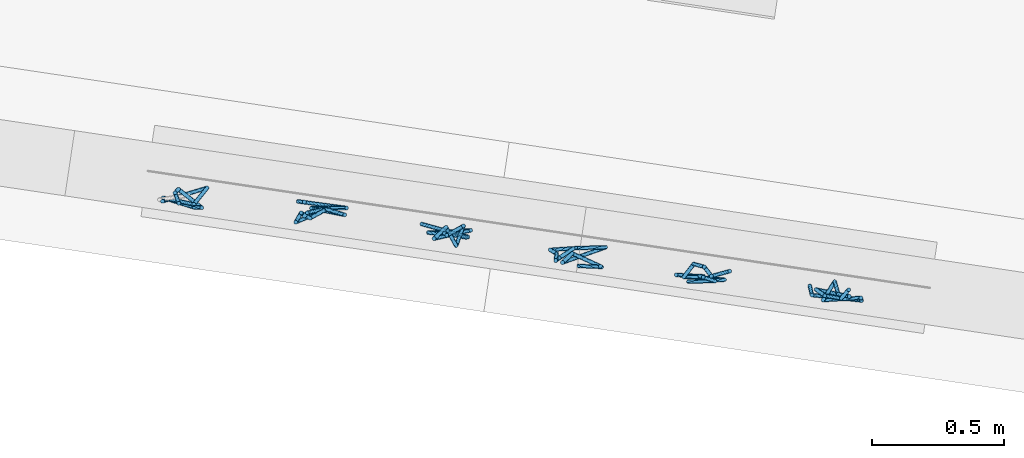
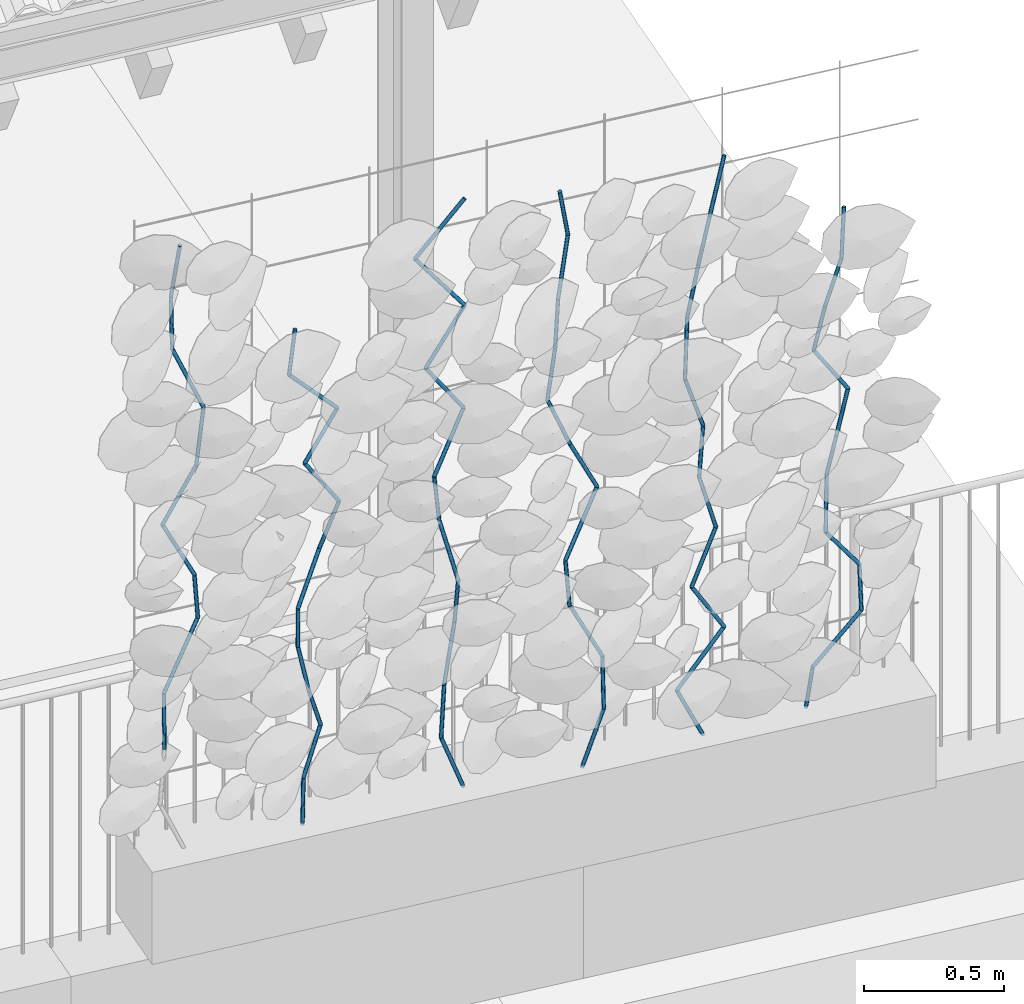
# One storey, part 115 of 128: 64 members, 1 element without a shape of its own.
"""IFC4 building model written with IfcOpenShell, lengths in metres."""

import ifcopenshell
import ifcopenshell.guid

model = None  # the IFC model being written
_history = None  # IfcOwnerHistory: only IFC2X3 demands one
_inside = {}  # id of a spatial element -> (the spatial element, [elements in it])
_under = {}  # id of a project, library or spatial element -> (it, [spatial elements below it])
_declared = {}  # id of a project -> (the project, [libraries it declares])
_typed = {}  # id of a type object -> (the type object, [elements of that type])
_made_of = {}  # id of a material, layer set ... -> (it, [elements and type objects made of it])


def new_model(schema):
    """Start an empty IFC model of exactly this schema.

    Asked for "IFC4X3", IfcOpenShell would pick the latest addendum, in which some entities
    have other attributes; the version numbers below select the first issue.
    IFC2X3 requires an IfcOwnerHistory on every rooted entity: one is made here for all.
    """
    global model, _history
    if schema == "IFC4X3":
        model = ifcopenshell.file(schema_version=(4, 3, 0, 0))
    else:
        model = ifcopenshell.file(schema=schema)
    _inside.clear()
    _under.clear()
    _declared.clear()
    _typed.clear()
    _made_of.clear()
    _history = None
    if model.schema == "IFC2X3":
        org = make("IfcOrganization", Name="unknown")
        user = make(
            "IfcPersonAndOrganization",
            ThePerson=make("IfcPerson", FamilyName="unknown"),
            TheOrganization=org,
        )
        app = make(
            "IfcApplication",
            ApplicationDeveloper=org,
            Version="unknown",
            ApplicationFullName="unknown",
            ApplicationIdentifier="unknown",
        )
        _history = make(
            "IfcOwnerHistory",
            OwningUser=user,
            OwningApplication=app,
            ChangeAction="ADDED",
            CreationDate=0,
        )
    return model


def make(cls, **values):
    """One entity of the class cls with the attributes given. An attribute that is None is left unset."""
    return model.create_entity(
        cls, **{name: value for name, value in values.items() if value is not None}
    )


def rooted(cls, **values):
    """An entity with a GlobalId (a new one), such as an element, a storey or a relation."""
    return make(cls, GlobalId=ifcopenshell.guid.new(), OwnerHistory=_history, **values)


def si_unit(unit_type, name, prefix=None):
    """IfcSIUnit, for example si_unit("LENGTHUNIT", "METRE", prefix="MILLI")."""
    return make("IfcSIUnit", UnitType=unit_type, Prefix=prefix, Name=name)


def assignment(units):
    """IfcUnitAssignment: the units of a project."""
    return None if units is None else make("IfcUnitAssignment", Units=units)


def point(xyz):
    """IfcCartesianPoint."""
    return None if xyz is None else make("IfcCartesianPoint", Coordinates=xyz)


def direction(xyz):
    """IfcDirection."""
    return None if xyz is None else make("IfcDirection", DirectionRatios=xyz)


def frame(location, z_axis=None, x_axis=None):
    """IfcAxis2Placement3D, a coordinate frame: its origin and axes. An axis left out is left unset."""
    return make(
        "IfcAxis2Placement3D",
        Location=point(location),
        Axis=direction(z_axis),
        RefDirection=direction(x_axis),
    )


def origin_with_axes():
    """The frame at (0, 0, 0) with the z axis (0, 0, 1) and the x axis (1, 0, 0) written out."""
    return frame((0.0, 0.0, 0.0), z_axis=(0.0, 0.0, 1.0), x_axis=(1.0, 0.0, 0.0))


def place(relative_to, where):
    """IfcLocalPlacement: puts the frame where relative to a parent placement (None: the world)."""
    return make(
        "IfcLocalPlacement", PlacementRelTo=relative_to, RelativePlacement=where
    )


def context(
    kind, dimensions, precision=None, world=None, true_north=None, identifier=None
):
    """IfcGeometricRepresentationContext, for example the 3D "Model" context."""
    return make(
        "IfcGeometricRepresentationContext",
        ContextIdentifier=identifier,
        ContextType=kind,
        CoordinateSpaceDimension=dimensions,
        Precision=precision,
        WorldCoordinateSystem=world,
        TrueNorth=true_north,
    )


def subcontext(parent, identifier, kind, view, scale=None):
    """IfcGeometricRepresentationSubContext, for example "Body" below "Model"."""
    return make(
        "IfcGeometricRepresentationSubContext",
        ContextIdentifier=identifier,
        ContextType=kind,
        ParentContext=parent,
        TargetScale=scale,
        TargetView=view,
    )


def project(units=None, contexts=None):
    """IfcProject with its units and contexts."""
    return rooted(
        "IfcProject",
        Name="project",
        RepresentationContexts=contexts,
        UnitsInContext=assignment(units),
    )


def spatial(cls, under=None, at=None, **own):
    """A site, building, storey or space (cls), placed at a placement, below another one or the project."""
    s = rooted(cls, ObjectPlacement=at, **own)
    if under is not None:
        _under.setdefault(under.id(), (under, []))[1].append(s)
    return s


def profile(cls, at=None, kind="AREA", **sizes):
    """A parametric profile (cls). Its sizes go by their IFC names, for example OverallWidth=200.0."""
    return make(cls, ProfileType=kind, Position=at, **sizes)


def circle(**sizes):
    """IfcCircleProfileDef."""
    return profile("IfcCircleProfileDef", **sizes)


def extrude(swept, where, along, depth):
    """IfcExtrudedAreaSolid: the profile swept, set in the frame where, extruded along a direction by depth."""
    return make(
        "IfcExtrudedAreaSolid",
        SweptArea=swept,
        Position=where,
        ExtrudedDirection=direction(along),
        Depth=depth,
    )


def shape(context_of_items, identifier, shape_type, items):
    """IfcShapeRepresentation: the items that make up one representation, for example the "Body"."""
    return make(
        "IfcShapeRepresentation",
        ContextOfItems=context_of_items,
        RepresentationIdentifier=identifier,
        RepresentationType=shape_type,
        Items=items,
    )


def material(Name=None, Category=None):
    """IfcMaterial."""
    return make("IfcMaterial", Name=Name, Category=Category)


def material_profile(
    of_material, cross_section, Name=None, Category=None, Priority=None
):
    """IfcMaterialProfile: a cross section and its material."""
    return make(
        "IfcMaterialProfile",
        Name=Name,
        Material=of_material,
        Profile=cross_section,
        Priority=Priority,
        Category=Category,
    )


def profile_set(profiles, Name=None, composite=None):
    """IfcMaterialProfileSet."""
    return make(
        "IfcMaterialProfileSet",
        Name=Name,
        MaterialProfiles=profiles,
        CompositeProfile=composite,
    )


def profile_usage(for_profile_set, cardinal=None, extent=None):
    """IfcMaterialProfileSetUsage: how a profile set lies along its element."""
    return make(
        "IfcMaterialProfileSetUsage",
        ForProfileSet=for_profile_set,
        CardinalPoint=cardinal,
        ReferenceExtent=extent,
    )


def made_of(thing, what):
    """Note that an element or type object is made of a material, layer set ...; save() writes the relation."""
    if what is not None:
        _made_of.setdefault(what.id(), (what, []))[1].append(thing)
    return thing


def type_object(cls, material=None, **own):
    """A type object (cls), such as IfcWallType, which elements share."""
    return made_of(rooted(cls, **own), material)


def element(
    cls,
    number,
    at=None,
    inside=None,
    cuts=None,
    type_object=None,
    material=None,
    context=None,
    identifier="Body",
    shape_type=None,
    held_by="IfcProductDefinitionShape",
    body=None,
    shapes=None,
    **own,
):
    """One element of the class cls, such as IfcWall. Its Tag is "e" and its number.

    at: its placement. inside: the storey or other place that contains it. cuts: it is an
    opening in that element (IfcRelVoidsElement). A single representation is given by context,
    identifier, shape_type and body (its items); several are given by shapes. held_by: the class
    of the entity that holds the representations. save() writes the other relations.
    """
    e = rooted(cls, Tag="e%d" % number, ObjectPlacement=at, **own)
    if body is not None:
        shapes = [shape(context, identifier, shape_type, body)]
    if shapes is not None:
        e.Representation = make(held_by, Representations=shapes)
    if inside is not None:
        _inside.setdefault(inside.id(), (inside, []))[1].append(e)
    if cuts is not None:
        rooted(
            "IfcRelVoidsElement", RelatingBuildingElement=cuts, RelatedOpeningElement=e
        )
    if type_object is not None:
        _typed.setdefault(type_object.id(), (type_object, []))[1].append(e)
    return made_of(e, material)


def aggregate(whole, parts):
    """IfcRelAggregates: a whole, such as a stair, and the parts it consists of."""
    return rooted("IfcRelAggregates", RelatingObject=whole, RelatedObjects=parts)


def save(model, path):
    """Write the relations noted so far, then the file.

    IfcRelAggregates (storeys below a building ...), IfcRelContainedInSpatialStructure (elements
    in a storey), IfcRelDefinesByType, IfcRelAssociatesMaterial and IfcRelDeclares: one each for
    every whole, place, type object, material and project.
    """
    for whole, parts in _under.values():
        aggregate(whole, parts)
    for where, things in _inside.values():
        rooted(
            "IfcRelContainedInSpatialStructure",
            RelatedElements=things,
            RelatingStructure=where,
        )
    for kind, things in _typed.values():
        rooted("IfcRelDefinesByType", RelatedObjects=things, RelatingType=kind)
    for what, things in _made_of.values():
        rooted("IfcRelAssociatesMaterial", RelatedObjects=things, RelatingMaterial=what)
    for by, libraries in _declared.values():
        rooted("IfcRelDeclares", RelatingContext=by, RelatedDefinitions=libraries)
    model.write(path)


model = new_model("IFC4")

# Units and contexts
model_context = context("Model", 3, precision=1e-05, world=origin_with_axes(), true_north=direction((0.0, 1.0)))
body_context = subcontext(model_context, "Body", "Model", "MODEL_VIEW")
ifc_project = project(units=[si_unit("VOLUMEUNIT", "CUBIC_METRE"), si_unit("LENGTHUNIT", "METRE"), si_unit("AREAUNIT", "SQUARE_METRE")], contexts=[model_context])

# Site, building, storey
site_placement = place(None, origin_with_axes())
site = spatial("IfcSite", under=ifc_project, at=site_placement, Name="Lares · Rua das Mercês · artigo 4771")
building_placement = place(site_placement, frame((15.0, 9.7, 13.9), z_axis=(0.0, 0.0, 1.0), x_axis=(0.989015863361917, -0.147809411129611, 0.0)))
building = spatial("IfcBuilding", under=site, at=building_placement, Name="Casa Sobreposta")
storey_placement = place(building_placement, origin_with_axes())
storey = spatial("IfcBuildingStorey", under=building, at=storey_placement, Name="00 · Habitação e estacionamento", Elevation=13.9)

# Assembly, members
assembly_placement = place(storey_placement, origin_with_axes())
assembly = element("IfcElementAssembly", 1, at=assembly_placement, inside=storey, Name="Fachada sul e pátio · estrutura e trepadeiras", ObjectType="LIVING_SHADE_TRELLIS", PredefinedType="USERDEFINED")
ifc_material = material(Name="Ramos de trepadeiras", Category="wood")
ifc_material_profile = material_profile(ifc_material, circle(Radius=0.0075))
ifc_profile_set = profile_set([ifc_material_profile], Name="D0.015")
ifc_profile_usage_1 = profile_usage(ifc_profile_set)
member_type = type_object("IfcMemberType", Name="D0.015 / vine_wood", PredefinedType="NOTDEFINED", material=ifc_profile_set)
member_1_placement = place(assembly_placement, frame((28.5749850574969, -1.71359357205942, 0.832915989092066), z_axis=(-0.0115075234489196, -0.00834781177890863, 0.999898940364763), x_axis=(0.999933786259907, -9.6069000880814e-05, 0.0115071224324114)))
member_1 = element("IfcMember", 2, at=member_1_placement, type_object=member_type, material=ifc_profile_usage_1, Name="Trepadeiras · ramo", context=body_context, shape_type="SweptSolid", body=[
    extrude(circle(Radius=0.0075), origin_with_axes(), (0.0, 0.0, 1.0), 0.241482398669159),
])
ifc_profile_usage_2 = profile_usage(ifc_profile_set)
member_2_placement = place(assembly_placement, frame((28.5722061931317, -1.71560942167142, 1.0743739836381), z_axis=(0.533464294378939, 0.251838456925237, 0.807460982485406), x_axis=(0.426902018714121, -0.904297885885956, 0.0)))
member_2 = element("IfcMember", 3, at=member_2_placement, type_object=member_type, material=ifc_profile_usage_2, Name="Trepadeiras · ramo", context=body_context, shape_type="SweptSolid", body=[
    extrude(circle(Radius=0.0075), origin_with_axes(), (0.0, 0.0, 1.0), 0.29903363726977),
])
ifc_profile_usage_3 = profile_usage(ifc_profile_set)
member_3_placement = place(assembly_placement, frame((28.7317299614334, -1.64030125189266, 1.31583197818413), z_axis=(-0.158977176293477, -0.272002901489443, 0.949073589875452), x_axis=(-0.863351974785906, 0.504602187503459, 0.0)))
member_3 = element("IfcMember", 4, at=member_3_placement, type_object=member_type, material=ifc_profile_usage_3, Name="Trepadeiras · ramo", context=body_context, shape_type="SweptSolid", body=[
    extrude(circle(Radius=0.0075), origin_with_axes(), (0.0, 0.0, 1.0), 0.254414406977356),
])
ifc_profile_usage_4 = profile_usage(ifc_profile_set)
member_4_placement = place(assembly_placement, frame((28.6912838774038, -1.70950270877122, 1.55728997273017), z_axis=(-0.441663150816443, 0.0283630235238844, 0.89673251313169), x_axis=(0.0640866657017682, 0.997944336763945, 0.0)))
member_4 = element("IfcMember", 5, at=member_4_placement, type_object=member_type, material=ifc_profile_usage_4, Name="Trepadeiras · ramo", context=body_context, shape_type="SweptSolid", body=[
    extrude(circle(Radius=0.0075), origin_with_axes(), (0.0, 0.0, 1.0), 0.269264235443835),
])
ifc_profile_usage_5 = profile_usage(ifc_profile_set)
member_5_placement = place(assembly_placement, frame((28.5723597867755, -1.70186556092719, 1.7987479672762), z_axis=(0.44971328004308, -0.0700878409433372, 0.890418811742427), x_axis=(-0.153991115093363, -0.988072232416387, 0.0)))
member_5 = element("IfcMember", 6, at=member_5_placement, type_object=member_type, material=ifc_profile_usage_5, Name="Trepadeiras · ramo", context=body_context, shape_type="SweptSolid", body=[
    extrude(circle(Radius=0.0075), origin_with_axes(), (0.0, 0.0, 1.0), 0.271173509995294),
])
ifc_profile_usage_6 = profile_usage(ifc_profile_set)
member_6_placement = place(assembly_placement, frame((28.6943101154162, -1.72087152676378, 2.04020596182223), z_axis=(0.117988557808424, 0.0130437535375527, 0.992929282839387), x_axis=(0.109881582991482, -0.993944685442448, 0.0)))
member_6 = element("IfcMember", 7, at=member_6_placement, type_object=member_type, material=ifc_profile_usage_6, Name="Trepadeiras · ramo", context=body_context, shape_type="SweptSolid", body=[
    extrude(circle(Radius=0.0075), origin_with_axes(), (0.0, 0.0, 1.0), 0.24317743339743),
])
ifc_profile_usage_7 = profile_usage(ifc_profile_set)
member_7_placement = place(assembly_placement, frame((28.7230022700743, -1.71769958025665, 2.28166395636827), z_axis=(-0.366803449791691, 0.210846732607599, 0.906089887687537), x_axis=(0.498355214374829, 0.866972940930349, 0.0)))
member_7 = element("IfcMember", 8, at=member_7_placement, type_object=member_type, material=ifc_profile_usage_7, Name="Trepadeiras · ramo", context=body_context, shape_type="SweptSolid", body=[
    extrude(circle(Radius=0.0075), origin_with_axes(), (0.0, 0.0, 1.0), 0.26648348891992),
])
ifc_profile_usage_8 = profile_usage(ifc_profile_set)
member_8_placement = place(assembly_placement, frame((28.625255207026, -1.66151240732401, 2.5231219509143), z_axis=(-0.0444062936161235, -0.0617658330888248, 0.997102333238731), x_axis=(-0.811939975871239, 0.583740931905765, 0.0)))
member_8 = element("IfcMember", 9, at=member_8_placement, type_object=member_type, material=ifc_profile_usage_8, Name="Trepadeiras · ramo", context=body_context, shape_type="SweptSolid", body=[
    extrude(circle(Radius=0.0075), origin_with_axes(), (0.0, 0.0, 1.0), 0.24215969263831),
])
ifc_profile_usage_9 = profile_usage(ifc_profile_set)
member_9_placement = place(assembly_placement, frame((28.6145017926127, -1.67646960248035, 2.76457994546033), z_axis=(0.0813731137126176, -0.15348360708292, 0.984795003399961), x_axis=(-0.883509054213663, -0.468414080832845, 0.0)))
member_9 = element("IfcMember", 10, at=member_9_placement, type_object=member_type, material=ifc_profile_usage_9, Name="Trepadeiras · ramo", context=body_context, shape_type="SweptSolid", body=[
    extrude(circle(Radius=0.0075), origin_with_axes(), (0.0, 0.0, 1.0), 0.245186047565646),
])
ifc_profile_usage_10 = profile_usage(ifc_profile_set)
member_10_placement = place(assembly_placement, frame((29.112347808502, -1.69130840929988, 0.35), z_axis=(0.0459054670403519, 0.0712523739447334, 0.996401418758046), x_axis=(0.840639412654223, -0.541595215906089, 0.0)))
member_10 = element("IfcMember", 11, at=member_10_placement, type_object=member_type, material=ifc_profile_usage_10, Name="Trepadeiras · ramo", context=body_context, shape_type="SweptSolid", body=[
    extrude(circle(Radius=0.0075), origin_with_axes(), (0.0, 0.0, 1.0), 0.19361986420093),
])
ifc_profile_usage_11 = profile_usage(ifc_profile_set)
member_11_placement = place(assembly_placement, frame((29.1212360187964, -1.67751253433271, 0.542923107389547), z_axis=(0.367595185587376, 0.141279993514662, 0.919191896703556), x_axis=(0.358751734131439, -0.933433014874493, 0.0)))
member_11 = element("IfcMember", 12, at=member_11_placement, type_object=member_type, material=ifc_profile_usage_11, Name="Trepadeiras · ramo", context=body_context, shape_type="SweptSolid", body=[
    extrude(circle(Radius=0.0075), origin_with_axes(), (0.0, 0.0, 1.0), 0.209883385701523),
])
ifc_profile_usage_12 = profile_usage(ifc_profile_set)
member_12_placement = place(assembly_placement, frame((29.1983881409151, -1.64786021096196, 0.735846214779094), z_axis=(-0.3051563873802, -0.231978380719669, 0.92361550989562), x_axis=(-0.605181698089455, 0.796087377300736, 0.0)))
member_12 = element("IfcMember", 13, at=member_12_placement, type_object=member_type, material=ifc_profile_usage_12, Name="Trepadeiras · ramo", context=body_context, shape_type="SweptSolid", body=[
    extrude(circle(Radius=0.0075), origin_with_axes(), (0.0, 0.0, 1.0), 0.208878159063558),
])
ifc_profile_usage_13 = profile_usage(ifc_profile_set)
member_13_placement = place(assembly_placement, frame((29.1346476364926, -1.69631542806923, 0.928769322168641), z_axis=(-0.183770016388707, 0.0772300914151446, 0.979930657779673), x_axis=(0.387431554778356, 0.921898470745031, 0.0)))
member_13 = element("IfcMember", 14, at=member_13_placement, type_object=member_type, material=ifc_profile_usage_13, Name="Trepadeiras · ramo", context=body_context, shape_type="SweptSolid", body=[
    extrude(circle(Radius=0.0075), origin_with_axes(), (0.0, 0.0, 1.0), 0.19687424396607),
])
ifc_profile_usage_14 = profile_usage(ifc_profile_set)
member_14_placement = place(assembly_placement, frame((29.0984680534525, -1.68111081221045, 1.12169242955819), z_axis=(-0.074917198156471, -0.192844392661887, 0.978365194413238), x_axis=(-0.932131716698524, 0.362119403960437, 0.0)))
member_14 = element("IfcMember", 15, at=member_14_placement, type_object=member_type, material=ifc_profile_usage_14, Name="Trepadeiras · ramo", context=body_context, shape_type="SweptSolid", body=[
    extrude(circle(Radius=0.0075), origin_with_axes(), (0.0, 0.0, 1.0), 0.197189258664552),
])
ifc_profile_usage_15 = profile_usage(ifc_profile_set)
member_15_placement = place(assembly_placement, frame((29.0836951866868, -1.71913765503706, 1.31461553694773), z_axis=(0.46899645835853, 0.284231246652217, 0.836214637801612), x_axis=(0.518289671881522, -0.85520513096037, 4.23222490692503e-17)))
member_15 = element("IfcMember", 16, at=member_15_placement, type_object=member_type, material=ifc_profile_usage_15, Name="Trepadeiras · ramo", context=body_context, shape_type="SweptSolid", body=[
    extrude(circle(Radius=0.0075), origin_with_axes(), (0.0, 0.0, 1.0), 0.23071003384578),
])
ifc_profile_usage_16 = profile_usage(ifc_profile_set)
member_16_placement = place(assembly_placement, frame((29.1918973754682, -1.6535626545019, 1.50753864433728), z_axis=(0.344333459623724, -0.0518501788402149, 0.937414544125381), x_axis=(-0.148902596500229, -0.988851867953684, 0.0)))
member_16 = element("IfcMember", 17, at=member_16_placement, type_object=member_type, material=ifc_profile_usage_16, Name="Trepadeiras · ramo", context=body_context, shape_type="SweptSolid", body=[
    extrude(circle(Radius=0.0075), origin_with_axes(), (0.0, 0.0, 1.0), 0.20580340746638),
])
ifc_profile_usage_17 = profile_usage(ifc_profile_set)
member_17_placement = place(assembly_placement, frame((29.2627623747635, -1.66423359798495, 1.70046175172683), z_axis=(-0.556224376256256, 0.0257593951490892, 0.830632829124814), x_axis=(0.0462615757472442, 0.998929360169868, 0.0)))
member_17 = element("IfcMember", 18, at=member_17_placement, type_object=member_type, material=ifc_profile_usage_17, Name="Trepadeiras · ramo", context=body_context, shape_type="SweptSolid", body=[
    extrude(circle(Radius=0.0075), origin_with_axes(), (0.0, 0.0, 1.0), 0.232260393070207),
])
ifc_profile_usage_18 = profile_usage(ifc_profile_set)
member_18_placement = place(assembly_placement, frame((29.133573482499, -1.65825071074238, 1.89338485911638), z_axis=(0.565369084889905, 0.0880131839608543, 0.820128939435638), x_axis=(0.153821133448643, -0.988098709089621, 0.0)))
member_18 = element("IfcMember", 19, at=member_18_placement, type_object=member_type, material=ifc_profile_usage_18, Name="Trepadeiras · ramo", context=body_context, shape_type="SweptSolid", body=[
    extrude(circle(Radius=0.0075), origin_with_axes(), (0.0, 0.0, 1.0), 0.235235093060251),
])
ifc_profile_usage_19 = profile_usage(ifc_profile_set)
member_19_placement = place(assembly_placement, frame((29.2665681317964, -1.63754692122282, 2.08630796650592), z_axis=(-0.693244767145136, -0.00975573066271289, 0.720636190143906), x_axis=(-0.0140711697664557, 0.999900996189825, 0.0)))
member_19 = element("IfcMember", 20, at=member_19_placement, type_object=member_type, material=ifc_profile_usage_19, Name="Trepadeiras · ramo", context=body_context, shape_type="SweptSolid", body=[
    extrude(circle(Radius=0.0075), origin_with_axes(), (0.0, 0.0, 1.0), 0.267712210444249),
])
ifc_profile_usage_20 = profile_usage(ifc_profile_set)
member_20_placement = place(assembly_placement, frame((29.0809780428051, -1.64015864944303, 2.27923107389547), z_axis=(0.120581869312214, 0.0060911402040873, 0.992684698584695), x_axis=(0.0504502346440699, -0.998726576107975, 0.0)))
member_20 = element("IfcMember", 21, at=member_20_placement, type_object=member_type, material=ifc_profile_usage_20, Name="Trepadeiras · ramo", context=body_context, shape_type="SweptSolid", body=[
    extrude(circle(Radius=0.0075), origin_with_axes(), (0.0, 0.0, 1.0), 0.194344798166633),
])
ifc_profile_usage_21 = profile_usage(ifc_profile_set)
member_21_placement = place(assembly_placement, frame((29.7317866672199, -1.68120411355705, 0.35), z_axis=(-0.340028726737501, 0.0134025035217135, 0.940319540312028), x_axis=(0.0393852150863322, 0.999224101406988, 2.396751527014e-18)))
member_21 = element("IfcMember", 22, at=member_21_placement, type_object=member_type, material=ifc_profile_usage_21, Name="Trepadeiras · ramo", context=body_context, shape_type="SweptSolid", body=[
    extrude(circle(Radius=0.0075), origin_with_axes(), (0.0, 0.0, 1.0), 0.246825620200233),
])
ifc_profile_usage_22 = profile_usage(ifc_profile_set)
member_22_placement = place(assembly_placement, frame((29.647858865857, -1.67789603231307, 0.582094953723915), z_axis=(0.0399997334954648, -0.026016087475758, 0.998860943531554), x_axis=(-0.545227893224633, -0.838287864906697, 0.0)))
member_22 = element("IfcMember", 23, at=member_22_placement, type_object=member_type, material=ifc_profile_usage_22, Name="Trepadeiras · ramo", context=body_context, shape_type="SweptSolid", body=[
    extrude(circle(Radius=0.0075), origin_with_axes(), (0.0, 0.0, 1.0), 0.232359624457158),
])
ifc_profile_usage_23 = profile_usage(ifc_profile_set)
member_23_placement = place(assembly_placement, frame((29.6571531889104, -1.68394112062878, 0.814189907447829), z_axis=(0.235799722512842, 0.183261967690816, 0.954365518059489), x_axis=(0.613653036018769, -0.789575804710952, 0.0)))
member_23 = element("IfcMember", 24, at=member_23_placement, type_object=member_type, material=ifc_profile_usage_23, Name="Trepadeiras · ramo", context=body_context, shape_type="SweptSolid", body=[
    extrude(circle(Radius=0.0075), origin_with_axes(), (0.0, 0.0, 1.0), 0.243192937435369),
])
ifc_profile_usage_24 = profile_usage(ifc_profile_set)
member_24_placement = place(assembly_placement, frame((29.7144980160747, -1.63937310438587, 1.04628486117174), z_axis=(-0.0670096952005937, -0.316654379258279, 0.946171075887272), x_axis=(-0.978333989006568, 0.207032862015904, 0.0)))
member_24 = element("IfcMember", 25, at=member_24_placement, type_object=member_type, material=ifc_profile_usage_24, Name="Trepadeiras · ramo", context=body_context, shape_type="SweptSolid", body=[
    extrude(circle(Radius=0.0075), origin_with_axes(), (0.0, 0.0, 1.0), 0.245299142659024),
])
ifc_profile_usage_25 = profile_usage(ifc_profile_set)
member_25_placement = place(assembly_placement, frame((29.6980605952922, -1.71704815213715, 1.27837981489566), z_axis=(-0.19641976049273, 0.256738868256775, 0.946310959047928), x_axis=(0.794223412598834, 0.607625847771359, 0.0)))
member_25 = element("IfcMember", 26, at=member_25_placement, type_object=member_type, material=ifc_profile_usage_25, Name="Trepadeiras · ramo", context=body_context, shape_type="SweptSolid", body=[
    extrude(circle(Radius=0.0075), origin_with_axes(), (0.0, 0.0, 1.0), 0.245262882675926),
])
ifc_profile_usage_26 = profile_usage(ifc_profile_set)
member_26_placement = place(assembly_placement, frame((29.6498861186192, -1.65407963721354, 1.51047476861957), z_axis=(-0.160183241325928, -0.205358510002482, 0.965489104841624), x_axis=(-0.788495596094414, 0.615040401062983, 0.0)))
member_26 = element("IfcMember", 27, at=member_26_placement, type_object=member_type, material=ifc_profile_usage_26, Name="Trepadeiras · ramo", context=body_context, shape_type="SweptSolid", body=[
    extrude(circle(Radius=0.0075), origin_with_axes(), (0.0, 0.0, 1.0), 0.240391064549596),
])
ifc_profile_usage_27 = profile_usage(ifc_profile_set)
member_27_placement = place(assembly_placement, frame((29.6113794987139, -1.70344598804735, 1.74256972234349), z_axis=(0.487994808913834, 0.190415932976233, 0.851823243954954), x_axis=(0.363507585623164, -0.931591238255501, 0.0)))
member_27 = element("IfcMember", 28, at=member_27_placement, type_object=member_type, material=ifc_profile_usage_27, Name="Trepadeiras · ramo", context=body_context, shape_type="SweptSolid", body=[
    extrude(circle(Radius=0.0075), origin_with_axes(), (0.0, 0.0, 1.0), 0.272468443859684),
])
ifc_profile_usage_28 = profile_usage(ifc_profile_set)
member_28_placement = place(assembly_placement, frame((29.7443426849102, -1.65156365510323, 1.9746646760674), z_axis=(-0.560332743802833, -0.115226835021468, 0.8202133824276), x_axis=(-0.201425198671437, 0.979503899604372, 0.0)))
member_28 = element("IfcMember", 29, at=member_28_placement, type_object=member_type, material=ifc_profile_usage_28, Name="Trepadeiras · ramo", context=body_context, shape_type="SweptSolid", body=[
    extrude(circle(Radius=0.0075), origin_with_axes(), (0.0, 0.0, 1.0), 0.282968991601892),
])
ifc_profile_usage_29 = profile_usage(ifc_profile_set)
member_29_placement = place(assembly_placement, frame((29.5857858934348, -1.68416927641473, 2.20675962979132), z_axis=(0.548330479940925, 0.0211627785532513, 0.835993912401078), x_axis=(0.038566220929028, -0.999256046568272, 0.0)))
member_29 = element("IfcMember", 30, at=member_29_placement, type_object=member_type, material=ifc_profile_usage_29, Name="Trepadeiras · ramo", context=body_context, shape_type="SweptSolid", body=[
    extrude(circle(Radius=0.0075), origin_with_axes(), (0.0, 0.0, 1.0), 0.277627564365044),
])
ifc_profile_usage_30 = profile_usage(ifc_profile_set)
member_30_placement = place(assembly_placement, frame((29.7380175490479, -1.67829390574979, 2.43885458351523), z_axis=(-0.614491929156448, 0.0768333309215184, 0.785172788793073), x_axis=(0.124069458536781, 0.992273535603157, 0.0)))
member_30 = element("IfcMember", 31, at=member_30_placement, type_object=member_type, material=ifc_profile_usage_30, Name="Trepadeiras · ramo", context=body_context, shape_type="SweptSolid", body=[
    extrude(circle(Radius=0.0075), origin_with_axes(), (0.0, 0.0, 1.0), 0.295597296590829),
])
ifc_profile_usage_31 = profile_usage(ifc_profile_set)
member_31_placement = place(assembly_placement, frame((29.5563753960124, -1.65558218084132, 2.67094953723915), z_axis=(0.614559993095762, -0.0754962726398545, 0.785249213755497), x_axis=(-0.121929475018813, -0.992538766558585, 0.0)))
member_31 = element("IfcMember", 32, at=member_31_placement, type_object=member_type, material=ifc_profile_usage_31, Name="Trepadeiras · ramo", context=body_context, shape_type="SweptSolid", body=[
    extrude(circle(Radius=0.0075), origin_with_axes(), (0.0, 0.0, 1.0), 0.29556852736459),
])
ifc_profile_usage_32 = profile_usage(ifc_profile_set)
member_32_placement = place(assembly_placement, frame((30.1688478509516, -1.72486609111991, 0.35), z_axis=(0.354210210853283, 0.0375804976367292, 0.934410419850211), x_axis=(0.105504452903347, -0.994418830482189, 0.0)))
member_32 = element("IfcMember", 33, at=member_32_placement, type_object=member_type, material=ifc_profile_usage_32, Name="Trepadeiras · ramo", context=body_context, shape_type="SweptSolid", body=[
    extrude(circle(Radius=0.0075), origin_with_axes(), (0.0, 0.0, 1.0), 0.244269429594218),
])
ifc_profile_usage_33 = profile_usage(ifc_profile_set)
member_33_placement = place(assembly_placement, frame((30.2553705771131, -1.71568632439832, 0.578247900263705), z_axis=(-0.0207317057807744, 0.0073157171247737, 0.999758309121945), x_axis=(0.999785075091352, 0.000151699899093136, 0.0207311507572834)))
member_33 = element("IfcMember", 34, at=member_33_placement, type_object=member_type, material=ifc_profile_usage_33, Name="Trepadeiras · ramo", context=body_context, shape_type="SweptSolid", body=[
    extrude(circle(Radius=0.0075), origin_with_axes(), (0.0, 0.0, 1.0), 0.22830307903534),
])
ifc_profile_usage_34 = profile_usage(ifc_profile_set)
member_34_placement = place(assembly_placement, frame((30.2506374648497, -1.71401612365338, 0.80649580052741), z_axis=(-0.440679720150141, 0.126938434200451, 0.888643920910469), x_axis=(0.276796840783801, 0.96092846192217, -1.34457803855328e-17)))
member_34 = element("IfcMember", 35, at=member_34_placement, type_object=member_type, material=ifc_profile_usage_34, Name="Trepadeiras · ramo", context=body_context, shape_type="SweptSolid", body=[
    extrude(circle(Radius=0.0075), origin_with_axes(), (0.0, 0.0, 1.0), 0.256849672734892),
])
ifc_profile_usage_35 = profile_usage(ifc_profile_set)
member_35_placement = place(assembly_placement, frame((30.1374490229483, -1.68141202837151, 1.03474370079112), z_axis=(-0.132643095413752, -0.169738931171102, 0.976521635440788), x_axis=(-0.787946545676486, 0.615743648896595, 0.0)))
member_35 = element("IfcMember", 36, at=member_35_placement, type_object=member_type, material=ifc_profile_usage_35, Name="Trepadeiras · ramo", context=body_context, shape_type="SweptSolid", body=[
    extrude(circle(Radius=0.0075), origin_with_axes(), (0.0, 0.0, 1.0), 0.233735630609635),
])
ifc_profile_usage_36 = profile_usage(ifc_profile_set)
member_36_placement = place(assembly_placement, frame((30.1064456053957, -1.7210860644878, 1.26299160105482), z_axis=(0.534234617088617, 0.284294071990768, 0.796096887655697), x_axis=(0.46977618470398, -0.882785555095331, 0.0)))
member_36 = element("IfcMember", 37, at=member_36_placement, type_object=member_type, material=ifc_profile_usage_36, Name="Trepadeiras · ramo", context=body_context, shape_type="SweptSolid", body=[
    extrude(circle(Radius=0.0075), origin_with_axes(), (0.0, 0.0, 1.0), 0.286708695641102),
])
ifc_profile_usage_37 = profile_usage(ifc_profile_set)
member_37_placement = place(assembly_placement, frame((30.2596153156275, -1.63957648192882, 1.49123950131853), z_axis=(-0.439127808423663, -0.0792948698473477, 0.894918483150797), x_axis=(-0.177699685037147, 0.984084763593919, 0.0)))
member_37 = element("IfcMember", 38, at=member_37_placement, type_object=member_type, material=ifc_profile_usage_37, Name="Trepadeiras · ramo", context=body_context, shape_type="SweptSolid", body=[
    extrude(circle(Radius=0.0075), origin_with_axes(), (0.0, 0.0, 1.0), 0.255048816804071),
])
ifc_profile_usage_38 = profile_usage(ifc_profile_set)
member_38_placement = place(assembly_placement, frame((30.1476162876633, -1.65980054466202, 1.71948740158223), z_axis=(-0.380194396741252, -0.083436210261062, 0.921135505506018), x_axis=(-0.214355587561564, 0.976755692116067, 0.0)))
member_38 = element("IfcMember", 39, at=member_38_placement, type_object=member_type, material=ifc_profile_usage_38, Name="Trepadeiras · ramo", context=body_context, shape_type="SweptSolid", body=[
    extrude(circle(Radius=0.0075), origin_with_axes(), (0.0, 0.0, 1.0), 0.247789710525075),
])
ifc_profile_usage_39 = profile_usage(ifc_profile_set)
member_39_placement = place(assembly_placement, frame((30.0534080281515, -1.68047517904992, 1.94773530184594), z_axis=(0.112249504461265, -0.0470598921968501, 0.992565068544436), x_axis=(-0.38663947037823, -0.922230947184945, 0.0)))
member_39 = element("IfcMember", 40, at=member_39_placement, type_object=member_type, material=ifc_profile_usage_39, Name="Trepadeiras · ramo", context=body_context, shape_type="SweptSolid", body=[
    extrude(circle(Radius=0.0075), origin_with_axes(), (0.0, 0.0, 1.0), 0.229957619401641),
])
ifc_profile_usage_40 = profile_usage(ifc_profile_set)
member_40_placement = place(assembly_placement, frame((30.0792206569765, -1.69129695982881, 2.17598320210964), z_axis=(0.00276000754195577, -0.114360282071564, 0.993435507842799), x_axis=(-0.999708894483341, -0.0241272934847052, 0.0)))
member_40 = element("IfcMember", 41, at=member_40_placement, type_object=member_type, material=ifc_profile_usage_40, Name="Trepadeiras · ramo", context=body_context, shape_type="SweptSolid", body=[
    extrude(circle(Radius=0.0075), origin_with_axes(), (0.0, 0.0, 1.0), 0.229756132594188),
])
ifc_profile_usage_41 = profile_usage(ifc_profile_set)
member_41_placement = place(assembly_placement, frame((30.0798547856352, -1.71757193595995, 2.40423110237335), z_axis=(0.243826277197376, 0.225510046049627, 0.943235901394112), x_axis=(0.678994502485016, -0.734143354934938, 0.0)))
member_41 = element("IfcMember", 42, at=member_41_placement, type_object=member_type, material=ifc_profile_usage_41, Name="Trepadeiras · ramo", context=body_context, shape_type="SweptSolid", body=[
    extrude(circle(Radius=0.0075), origin_with_axes(), (0.0, 0.0, 1.0), 0.241983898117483),
])
ifc_profile_usage_42 = profile_usage(ifc_profile_set)
member_42_placement = place(assembly_placement, frame((30.1388568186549, -1.66300213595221, 2.63247900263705), z_axis=(-0.203161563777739, -0.180478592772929, 0.962368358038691), x_axis=(-0.66413878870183, 0.747609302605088, 0.0)))
member_42 = element("IfcMember", 43, at=member_42_placement, type_object=member_type, material=ifc_profile_usage_42, Name="Trepadeiras · ramo", context=body_context, shape_type="SweptSolid", body=[
    extrude(circle(Radius=0.0075), origin_with_axes(), (0.0, 0.0, 1.0), 0.23717311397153),
])
ifc_profile_usage_43 = profile_usage(ifc_profile_set)
member_43_placement = place(assembly_placement, frame((30.6435672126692, -1.69358143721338, 0.35), z_axis=(-0.420393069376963, -0.0412524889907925, 0.906403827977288), x_axis=(-0.097659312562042, 0.995219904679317, 0.0)))
member_43 = element("IfcMember", 44, at=member_43_placement, type_object=member_type, material=ifc_profile_usage_43, Name="Trepadeiras · ramo", context=body_context, shape_type="SweptSolid", body=[
    extrude(circle(Radius=0.0075), origin_with_axes(), (0.0, 0.0, 1.0), 0.247882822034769),
])
ifc_profile_usage_44 = profile_usage(ifc_profile_set)
member_44_placement = place(assembly_placement, frame((30.5393589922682, -1.70380722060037, 0.574681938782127), z_axis=(0.634611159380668, 0.0311753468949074, 0.772202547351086), x_axis=(0.0490659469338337, -0.99879554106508, 0.0)))
member_44 = element("IfcMember", 45, at=member_44_placement, type_object=member_type, material=ifc_profile_usage_44, Name="Trepadeiras · ramo", context=body_context, shape_type="SweptSolid", body=[
    extrude(circle(Radius=0.0075), origin_with_axes(), (0.0, 0.0, 1.0), 0.290962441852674),
])
ifc_profile_usage_45 = profile_usage(ifc_profile_set)
member_45_placement = place(assembly_placement, frame((30.7240070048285, -1.69473636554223, 0.799363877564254), z_axis=(-0.51201860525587, -0.103295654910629, 0.852740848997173), x_axis=(-0.197757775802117, 0.980250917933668, 0.0)))
member_45 = element("IfcMember", 46, at=member_45_placement, type_object=member_type, material=ifc_profile_usage_45, Name="Trepadeiras · ramo", context=body_context, shape_type="SweptSolid", body=[
    extrude(circle(Radius=0.0075), origin_with_axes(), (0.0, 0.0, 1.0), 0.263482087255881),
])
ifc_profile_usage_46 = profile_usage(ifc_profile_set)
member_46_placement = place(assembly_placement, frame((30.5890992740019, -1.72195292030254, 1.02404581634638), z_axis=(0.403950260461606, 0.0688871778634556, 0.912183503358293), x_axis=(0.168106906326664, -0.985768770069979, 0.0)))
member_46 = element("IfcMember", 47, at=member_46_placement, type_object=member_type, material=ifc_profile_usage_46, Name="Trepadeiras · ramo", context=body_context, shape_type="SweptSolid", body=[
    extrude(circle(Radius=0.0075), origin_with_axes(), (0.0, 0.0, 1.0), 0.246312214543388),
])
ifc_profile_usage_47 = profile_usage(ifc_profile_set)
member_47_placement = place(assembly_placement, frame((30.6885971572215, -1.70498516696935, 1.24872775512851), z_axis=(-0.257877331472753, 0.0443312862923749, 0.96516010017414), x_axis=(0.16942321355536, 0.985543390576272, 0.0)))
member_47 = element("IfcMember", 48, at=member_47_placement, type_object=member_type, material=ifc_profile_usage_47, Name="Trepadeiras · ramo", context=body_context, shape_type="SweptSolid", body=[
    extrude(circle(Radius=0.0075), origin_with_axes(), (0.0, 0.0, 1.0), 0.23279240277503),
])
ifc_profile_usage_48 = profile_usage(ifc_profile_set)
member_48_placement = place(assembly_placement, frame((30.6285652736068, -1.69466518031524, 1.47340969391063), z_axis=(0.0610607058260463, -0.0125842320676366, 0.998054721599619), x_axis=(-0.20185157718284, -0.979416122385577, 0.0)))
member_48 = element("IfcMember", 49, at=member_48_placement, type_object=member_type, material=ifc_profile_usage_48, Name="Trepadeiras · ramo", context=body_context, shape_type="SweptSolid", body=[
    extrude(circle(Radius=0.0075), origin_with_axes(), (0.0, 0.0, 1.0), 0.22511985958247),
])
ifc_profile_usage_49 = profile_usage(ifc_profile_set)
member_49_placement = place(assembly_placement, frame((30.6423112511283, -1.69749814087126, 1.69809163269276), z_axis=(-0.308558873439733, -0.0423463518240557, 0.950262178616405), x_axis=(-0.135964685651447, 0.990713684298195, 0.0)))
member_49 = element("IfcMember", 50, at=member_49_placement, type_object=member_type, material=ifc_profile_usage_49, Name="Trepadeiras · ramo", context=body_context, shape_type="SweptSolid", body=[
    extrude(circle(Radius=0.0075), origin_with_axes(), (0.0, 0.0, 1.0), 0.236442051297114),
])
ifc_profile_usage_50 = profile_usage(ifc_profile_set)
member_50_placement = place(assembly_placement, frame((30.5693549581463, -1.70751059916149, 1.92277357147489), z_axis=(0.12852965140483, 0.233275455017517, 0.963878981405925), x_axis=(0.875853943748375, -0.482576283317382, 0.0)))
member_50 = element("IfcMember", 51, at=member_50_placement, type_object=member_type, material=ifc_profile_usage_50, Name="Trepadeiras · ramo", context=body_context, shape_type="SweptSolid", body=[
    extrude(circle(Radius=0.0075), origin_with_axes(), (0.0, 0.0, 1.0), 0.233101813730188),
])
ifc_profile_usage_51 = profile_usage(ifc_profile_set)
member_51_placement = place(assembly_placement, frame((30.5993154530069, -1.65313366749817, 2.14745551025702), z_axis=(0.180943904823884, -0.0208270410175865, 0.983272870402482), x_axis=(-0.114347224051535, -0.99344084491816, 0.0)))
member_51 = element("IfcMember", 52, at=member_51_placement, type_object=member_type, material=ifc_profile_usage_51, Name="Trepadeiras · ramo", context=body_context, shape_type="SweptSolid", body=[
    extrude(circle(Radius=0.0075), origin_with_axes(), (0.0, 0.0, 1.0), 0.22850415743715),
])
ifc_profile_usage_52 = profile_usage(ifc_profile_set)
member_52_placement = place(assembly_placement, frame((30.6406618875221, -1.6578927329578, 2.37213744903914), z_axis=(0.138114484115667, -0.135062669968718, 0.981163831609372), x_axis=(-0.699163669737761, -0.714961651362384, 0.0)))
member_52 = element("IfcMember", 53, at=member_52_placement, type_object=member_type, material=ifc_profile_usage_52, Name="Trepadeiras · ramo", context=body_context, shape_type="SweptSolid", body=[
    extrude(circle(Radius=0.0075), origin_with_axes(), (0.0, 0.0, 1.0), 0.228995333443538),
])
ifc_profile_usage_53 = profile_usage(ifc_profile_set)
member_53_placement = place(assembly_placement, frame((30.6722894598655, -1.68882145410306, 2.59681938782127), z_axis=(0.280115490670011, 0.122671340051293, 0.952096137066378), x_axis=(0.401150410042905, -0.916012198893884, -2.16040503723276e-17)))
member_53 = element("IfcMember", 54, at=member_53_placement, type_object=member_type, material=ifc_profile_usage_53, Name="Trepadeiras · ramo", context=body_context, shape_type="SweptSolid", body=[
    extrude(circle(Radius=0.0075), origin_with_axes(), (0.0, 0.0, 1.0), 0.23598660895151),
])
ifc_profile_usage_54 = profile_usage(ifc_profile_set)
member_54_placement = place(assembly_placement, frame((31.0467914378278, -1.67017096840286, 0.35), z_axis=(0.0671512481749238, -0.168174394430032, 0.983467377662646), x_axis=(-0.928702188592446, -0.370826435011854, 0.0)))
member_54 = element("IfcMember", 55, at=member_54_placement, type_object=member_type, material=ifc_profile_usage_54, Name="Trepadeiras · ramo", context=body_context, shape_type="SweptSolid", body=[
    extrude(circle(Radius=0.0075), origin_with_axes(), (0.0, 0.0, 1.0), 0.19717337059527),
])
ifc_profile_usage_55 = profile_usage(ifc_profile_set)
member_55_placement = place(assembly_placement, frame((31.0600318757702, -1.70333048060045, 0.543913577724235), z_axis=(0.697029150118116, 0.0275551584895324, 0.716513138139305), x_axis=(0.0395014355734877, -0.999219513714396, 0.0)))
member_55 = element("IfcMember", 56, at=member_55_placement, type_object=member_type, material=ifc_profile_usage_55, Name="Trepadeiras · ramo", context=body_context, shape_type="SweptSolid", body=[
    extrude(circle(Radius=0.0075), origin_with_axes(), (0.0, 0.0, 1.0), 0.270635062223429),
])
ifc_profile_usage_56 = profile_usage(ifc_profile_set)
member_56_placement = place(assembly_placement, frame((31.2486724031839, -1.69587308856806, 0.737827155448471), z_axis=(-0.018268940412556, 0.0484469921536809, 0.998658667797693), x_axis=(0.935684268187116, 0.352838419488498, 0.0)))
member_56 = element("IfcMember", 57, at=member_56_placement, type_object=member_type, material=ifc_profile_usage_56, Name="Trepadeiras · ramo", context=body_context, shape_type="SweptSolid", body=[
    extrude(circle(Radius=0.0075), origin_with_axes(), (0.0, 0.0, 1.0), 0.194174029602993),
])
ifc_profile_usage_57 = profile_usage(ifc_profile_set)
member_57_placement = place(assembly_placement, frame((31.2451250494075, -1.68646594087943, 0.931740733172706), z_axis=(-0.582503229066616, -0.12229763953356, 0.803575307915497), x_axis=(-0.205472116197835, 0.978662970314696, 0.0)))
member_57 = element("IfcMember", 58, at=member_57_placement, type_object=member_type, material=ifc_profile_usage_57, Name="Trepadeiras · ramo", context=body_context, shape_type="SweptSolid", body=[
    extrude(circle(Radius=0.0075), origin_with_axes(), (0.0, 0.0, 1.0), 0.241313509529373),
])
ifc_profile_usage_58 = profile_usage(ifc_profile_set)
member_58_placement = place(assembly_placement, frame((31.1045591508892, -1.71597801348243, 1.12565431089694), z_axis=(0.157157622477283, 0.359853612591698, 0.919677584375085), x_axis=(0.916417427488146, -0.400223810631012, 0.0)))
member_58 = element("IfcMember", 59, at=member_58_placement, type_object=member_type, material=ifc_profile_usage_58, Name="Trepadeiras · ramo", context=body_context, shape_type="SweptSolid", body=[
    extrude(circle(Radius=0.0075), origin_with_axes(), (0.0, 0.0, 1.0), 0.210849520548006),
])
ifc_profile_usage_59 = profile_usage(ifc_profile_set)
member_59_placement = place(assembly_placement, frame((31.137695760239, -1.64010305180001, 1.31956788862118), z_axis=(0.101722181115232, -0.222881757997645, 0.969523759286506), x_axis=(-0.909731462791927, -0.415197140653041, 0.0)))
member_59 = element("IfcMember", 60, at=member_59_placement, type_object=member_type, material=ifc_profile_usage_59, Name="Trepadeiras · ramo", context=body_context, shape_type="SweptSolid", body=[
    extrude(circle(Radius=0.0075), origin_with_axes(), (0.0, 0.0, 1.0), 0.200009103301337),
])
ifc_profile_usage_60 = profile_usage(ifc_profile_set)
member_60_placement = place(assembly_placement, frame((31.1580411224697, -1.68468143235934, 1.51348146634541), z_axis=(0.216259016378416, -0.0136234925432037, 0.976240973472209), x_axis=(-0.0628715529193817, -0.998021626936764, 0.0)))
member_60 = element("IfcMember", 61, at=member_60_placement, type_object=member_type, material=ifc_profile_usage_60, Name="Trepadeiras · ramo", context=body_context, shape_type="SweptSolid", body=[
    extrude(circle(Radius=0.0075), origin_with_axes(), (0.0, 0.0, 1.0), 0.198632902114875),
])
ifc_profile_usage_61 = profile_usage(ifc_profile_set)
member_61_placement = place(assembly_placement, frame((31.2009972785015, -1.68738750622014, 1.70739504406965), z_axis=(-0.551350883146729, 0.0309322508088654, 0.833699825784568), x_axis=(0.056014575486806, 0.998429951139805, 0.0)))
member_61 = element("IfcMember", 62, at=member_61_placement, type_object=member_type, material=ifc_profile_usage_61, Name="Trepadeiras · ramo", context=body_context, shape_type="SweptSolid", body=[
    extrude(circle(Radius=0.0075), origin_with_axes(), (0.0, 0.0, 1.0), 0.232594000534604),
])
ifc_profile_usage_62 = profile_usage(ifc_profile_set)
member_62_placement = place(assembly_placement, frame((31.0727563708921, -1.68019285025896, 1.90130862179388), z_axis=(0.181438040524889, -0.0922044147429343, 0.979070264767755), x_axis=(-0.453042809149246, -0.891488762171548, 0.0)))
member_62 = element("IfcMember", 63, at=member_62_placement, type_object=member_type, material=ifc_profile_usage_62, Name="Trepadeiras · ramo", context=body_context, shape_type="SweptSolid", body=[
    extrude(circle(Radius=0.0075), origin_with_axes(), (0.0, 0.0, 1.0), 0.198058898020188),
])
ifc_profile_usage_63 = profile_usage(ifc_profile_set)
member_63_placement = place(assembly_placement, frame((31.1086917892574, -1.69845475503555, 2.09522219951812), z_axis=(0.308462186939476, -0.00357083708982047, 0.951229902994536), x_axis=(-0.0115754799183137, -0.999933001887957, 0.0)))
member_63 = element("IfcMember", 64, at=member_63_placement, type_object=member_type, material=ifc_profile_usage_63, Name="Trepadeiras · ramo", context=body_context, shape_type="SweptSolid", body=[
    extrude(circle(Radius=0.0075), origin_with_axes(), (0.0, 0.0, 1.0), 0.203855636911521),
])
ifc_profile_usage_64 = profile_usage(ifc_profile_set)
member_64_placement = place(assembly_placement, frame((31.171573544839, -1.6991826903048, 2.28913577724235), z_axis=(0.117919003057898, 0.18423525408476, 0.975783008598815), x_axis=(0.842253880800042, -0.539081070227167, 0.0)))
member_64 = element("IfcMember", 65, at=member_64_placement, type_object=member_type, material=ifc_profile_usage_64, Name="Trepadeiras · ramo", context=body_context, shape_type="SweptSolid", body=[
    extrude(circle(Radius=0.0075), origin_with_axes(), (0.0, 0.0, 1.0), 0.198726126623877),
])
aggregate(assembly, [member_1, member_2, member_3, member_4, member_5, member_6, member_7, member_8, member_9, member_10, member_11, member_12, member_13, member_14, member_15, member_16, member_17, member_18, member_19, member_20, member_21, member_22, member_23, member_24, member_25, member_26, member_27, member_28, member_29, member_30, member_31, member_32, member_33, member_34, member_35, member_36, member_37, member_38, member_39, member_40, member_41, member_42, member_43, member_44, member_45, member_46, member_47, member_48, member_49, member_50, member_51, member_52, member_53, member_54, member_55, member_56, member_57, member_58, member_59, member_60, member_61, member_62, member_63, member_64])

save(model, "model.ifc")
